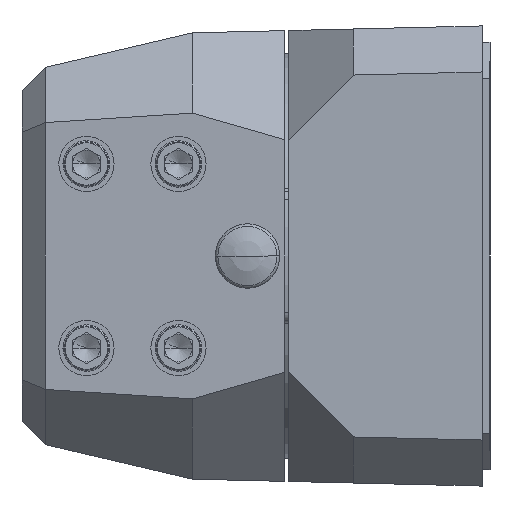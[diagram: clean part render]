
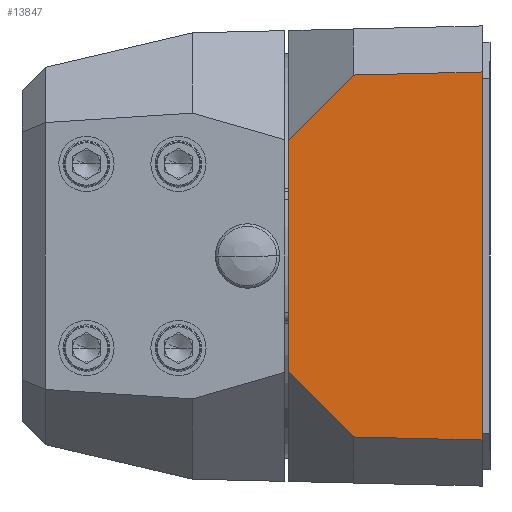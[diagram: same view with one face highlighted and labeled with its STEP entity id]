
A CAD part, left-side view. The second image highlights one B-rep face of the part: STEP entity #13847.
In plain terms, the highlighted planar face has unit normal (-1, 0.024, 0).
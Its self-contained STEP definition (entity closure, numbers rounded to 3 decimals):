
#11061=DIRECTION('',(0.,0.,1.));
#11062=VECTOR('',#11061,79.983);
#11063=CARTESIAN_POINT('',(-50.,0.,-39.991));
#11064=LINE('',#11063,#11062);
#11248=DIRECTION('',(0.024,0.999,0.024));
#11249=VECTOR('',#11248,28.016);
#11250=CARTESIAN_POINT('',(-50.,0.,-39.991));
#11251=LINE('',#11250,#11249);
#11276=DIRECTION('',(-0.017,-0.699,-0.715));
#11277=VECTOR('',#11276,20.033);
#11278=CARTESIAN_POINT('',(-49.,42.,-24.999));
#11279=LINE('',#11278,#11277);
#11283=DIRECTION('',(-0.017,-0.699,0.715));
#11284=VECTOR('',#11283,20.033);
#11285=CARTESIAN_POINT('',(-49.,42.,24.999));
#11286=LINE('',#11285,#11284);
#11290=DIRECTION('',(0.,0.,1.));
#11291=VECTOR('',#11290,49.999);
#11292=CARTESIAN_POINT('',(-49.,42.,-24.999));
#11293=LINE('',#11292,#11291);
#11528=DIRECTION('',(0.024,0.999,-0.024));
#11529=VECTOR('',#11528,28.016);
#11530=CARTESIAN_POINT('',(-50.,0.,39.991));
#11531=LINE('',#11530,#11529);
#13259=CARTESIAN_POINT('',(-50.,0.,39.991));
#13261=VERTEX_POINT('',#13259);
#13263=CARTESIAN_POINT('',(-50.,0.,-39.991));
#13265=VERTEX_POINT('',#13263);
#13275=CARTESIAN_POINT('',(-49.333,28.,39.325));
#13276=VERTEX_POINT('',#13275);
#13291=CARTESIAN_POINT('',(-49.333,28.,-39.325));
#13292=VERTEX_POINT('',#13291);
#13295=CARTESIAN_POINT('',(-49.,42.,-24.999));
#13296=CARTESIAN_POINT('',(-49.,42.,24.999));
#13297=VERTEX_POINT('',#13295);
#13298=VERTEX_POINT('',#13296);
#13830=CARTESIAN_POINT('',(-50.,0.,60.));
#13831=DIRECTION('',(1.,-0.024,0.));
#13832=DIRECTION('',(0.024,1.,0.));
#13833=AXIS2_PLACEMENT_3D('',#13830,#13831,#13832);
#13834=PLANE('',#13833);
#13835=ORIENTED_EDGE('',*,*,#13809,.T.);
#13837=ORIENTED_EDGE('',*,*,#13836,.F.);
#13839=ORIENTED_EDGE('',*,*,#13838,.T.);
#13841=ORIENTED_EDGE('',*,*,#13840,.T.);
#13843=ORIENTED_EDGE('',*,*,#13842,.F.);
#13844=ORIENTED_EDGE('',*,*,#13608,.F.);
#13845=EDGE_LOOP('',(#13835,#13837,#13839,#13841,#13843,#13844));
#13846=FACE_OUTER_BOUND('',#13845,.F.);
#13608=EDGE_CURVE('',#13265,#13261,#11064,.T.);
#13809=EDGE_CURVE('',#13265,#13292,#11251,.T.);
#13836=EDGE_CURVE('',#13297,#13292,#11279,.T.);
#13838=EDGE_CURVE('',#13297,#13298,#11293,.T.);
#13840=EDGE_CURVE('',#13298,#13276,#11286,.T.);
#13842=EDGE_CURVE('',#13261,#13276,#11531,.T.);
#13847=ADVANCED_FACE('',(#13846),#13834,.F.);
